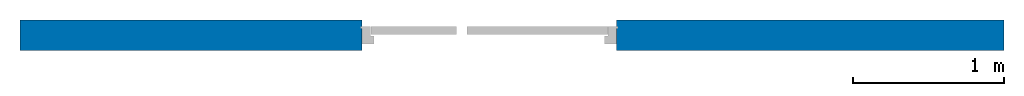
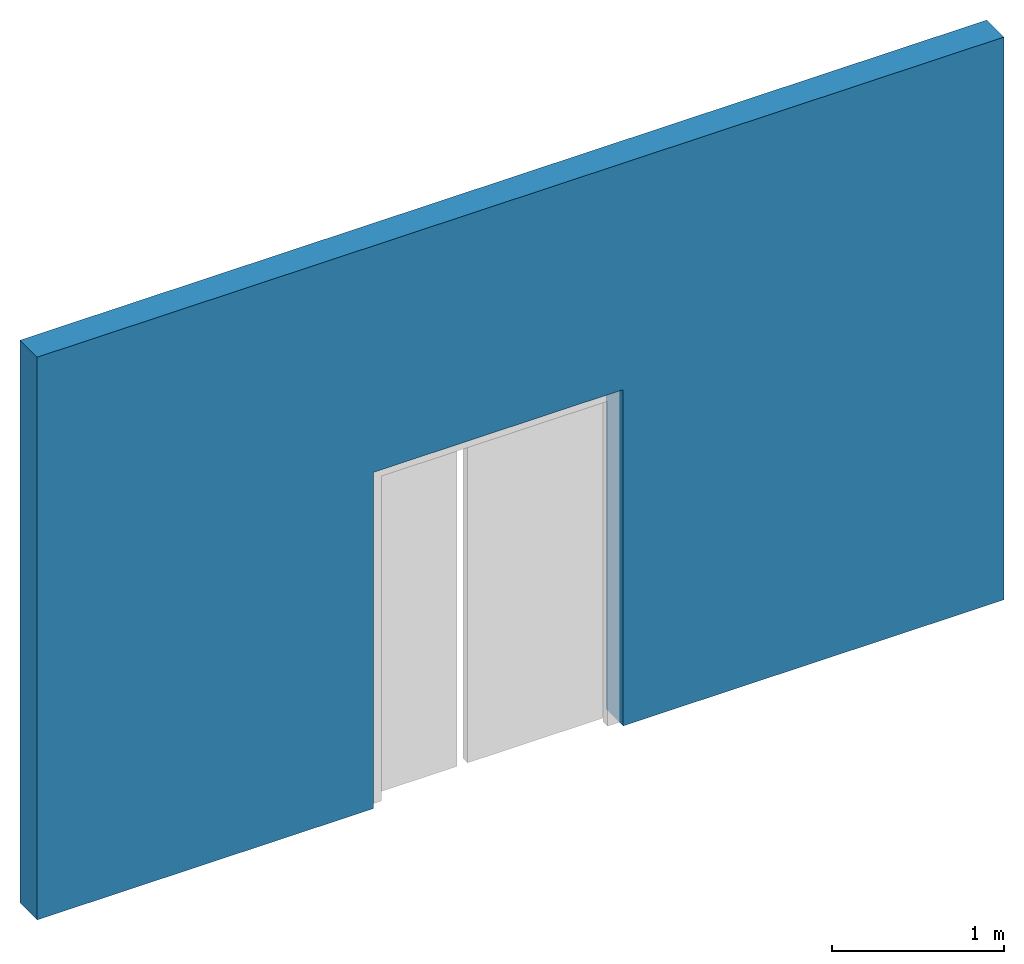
# One storey, part 1 of 3: 1 wall, 1 opening.
"""IFC2X3 building model written with IfcOpenShell, lengths in millimetres."""

from ifc_helpers import new_model, entity, si_unit, converted_unit, derived_unit, direction, frame, frame_2d, origin, place, context, subcontext, project, spatial, rectangle, extrude, material, layer, layer_set, layer_usage, type_object, element, save


model = new_model("IFC2X3")

# Units and contexts
model_context = context("Model", 3, precision=0.01, world=origin(), true_north=direction((6.12303176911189e-17, 1.0)))
plan_context = context("Plan", 3, precision=0.01, world=origin(), true_north=direction((6.12303176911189e-17, 1.0)))
body_context = subcontext(model_context, "Body", "Model", "MODEL_VIEW")
ifc_project = project(units=[si_unit("LENGTHUNIT", "METRE", prefix="MILLI"), si_unit("AREAUNIT", "SQUARE_METRE"), si_unit("VOLUMEUNIT", "CUBIC_METRE"), converted_unit("PLANEANGLEUNIT", "DEGREE", entity("IfcRatioMeasure", 0.0174532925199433), si_unit("PLANEANGLEUNIT", "RADIAN"), dimensions=[0, 0, 0, 0, 0, 0, 0]), si_unit("MASSUNIT", "GRAM", prefix="KILO"), derived_unit("MASSDENSITYUNIT", [(si_unit("MASSUNIT", "GRAM", prefix="KILO"), 1), (si_unit("LENGTHUNIT", "METRE"), -3)]), derived_unit("MOMENTOFINERTIAUNIT", [(si_unit("LENGTHUNIT", "METRE"), 4)]), si_unit("TIMEUNIT", "SECOND"), si_unit("FREQUENCYUNIT", "HERTZ"), si_unit("THERMODYNAMICTEMPERATUREUNIT", "DEGREE_CELSIUS"), derived_unit("THERMALTRANSMITTANCEUNIT", [(si_unit("MASSUNIT", "GRAM", prefix="KILO"), 1), (si_unit("THERMODYNAMICTEMPERATUREUNIT", "KELVIN"), -1), (si_unit("TIMEUNIT", "SECOND"), -3)]), derived_unit("VOLUMETRICFLOWRATEUNIT", [(si_unit("LENGTHUNIT", "METRE"), 3), (si_unit("TIMEUNIT", "SECOND"), -1)]), si_unit("ELECTRICCURRENTUNIT", "AMPERE"), si_unit("ELECTRICVOLTAGEUNIT", "VOLT"), si_unit("POWERUNIT", "WATT"), si_unit("FORCEUNIT", "NEWTON", prefix="KILO"), si_unit("ILLUMINANCEUNIT", "LUX"), si_unit("LUMINOUSFLUXUNIT", "LUMEN"), si_unit("LUMINOUSINTENSITYUNIT", "CANDELA"), derived_unit("USERDEFINED", [(si_unit("MASSUNIT", "GRAM", prefix="KILO"), -1), (si_unit("LENGTHUNIT", "METRE"), -2), (si_unit("TIMEUNIT", "SECOND"), 3), (si_unit("LUMINOUSFLUXUNIT", "LUMEN"), 1)]), derived_unit("LINEARVELOCITYUNIT", [(si_unit("LENGTHUNIT", "METRE"), 1), (si_unit("TIMEUNIT", "SECOND"), -1)]), si_unit("PRESSUREUNIT", "PASCAL"), derived_unit("USERDEFINED", [(si_unit("LENGTHUNIT", "METRE"), -2), (si_unit("MASSUNIT", "GRAM", prefix="KILO"), 1), (si_unit("TIMEUNIT", "SECOND"), -2)]), derived_unit("LINEARFORCEUNIT", [(si_unit("MASSUNIT", "GRAM", prefix="KILO"), 1), (si_unit("LENGTHUNIT", "METRE"), 1), (si_unit("TIMEUNIT", "SECOND"), -2), (si_unit("LENGTHUNIT", "METRE"), -1)]), derived_unit("PLANARFORCEUNIT", [(si_unit("MASSUNIT", "GRAM", prefix="KILO"), 1), (si_unit("LENGTHUNIT", "METRE"), 1), (si_unit("TIMEUNIT", "SECOND"), -2), (si_unit("LENGTHUNIT", "METRE"), -2)])], contexts=[model_context, plan_context])

# Site, building, storey
site_placement = place(None, origin())
site = spatial("IfcSite", under=ifc_project, at=site_placement, Name="Default", CompositionType="ELEMENT")
building_placement = place(site_placement, origin())
building = spatial("IfcBuilding", under=site, at=building_placement, CompositionType="ELEMENT")
storey_placement = place(building_placement, origin())
storey = spatial("IfcBuildingStorey", under=building, at=storey_placement, Name="Level 1", CompositionType="ELEMENT", Elevation=0.0)

# Wall, opening
ifc_material = material(Name="Default Wall")
ifc_layer = layer(ifc_material, 200.0)
ifc_layer_set = layer_set([ifc_layer], Name="Basic Wall:Wall 1")
ifc_layer_usage = layer_usage(ifc_layer_set, "AXIS2", "NEGATIVE", 100.0)
wall_type = type_object("IfcWallType", Name="Basic Wall:Wall 1", PredefinedType="STANDARD", material=ifc_layer_set)
wall_placement = place(storey_placement, frame((163.080895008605, 3020.65404475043, 0.0)))
wall = element("IfcWallStandardCase", 1, at=wall_placement, inside=storey, type_object=wall_type, material=ifc_layer_usage, Name="Basic Wall:Wall 1:2513", ObjectType="Basic Wall:Wall 1", context=body_context, shape_type="SweptSolid", body=[
    extrude(rectangle(XDim=6500.0, YDim=200.0, at=frame_2d((3250.0, -7.105427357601e-15), x_axis=(-1.0, 0.0))), origin(), (0.0, 0.0, 1.0), 4000.0),
])
opening_placement = place(wall_placement, frame((2260.0, -100.0, 0.0)))
element("IfcOpeningElement", 2, at=opening_placement, cuts=wall, Name="32_binnendeur_kozijn_dubbel_2020:Merk_L:1", ObjectType="Opening", context=body_context, shape_type="SweptSolid", body=[
    extrude(rectangle(XDim=2389.99999999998, YDim=1680.0, at=frame_2d((1194.99999999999, 840.0), x_axis=(1.0, 0.0))), frame((0.0, 0.0, 0.0), z_axis=(0.0, 1.0, 0.0), x_axis=(0.0, 0.0, 1.0)), (0.0, 0.0, 1.0), 200.0),
])

save(model, "model.ifc")
